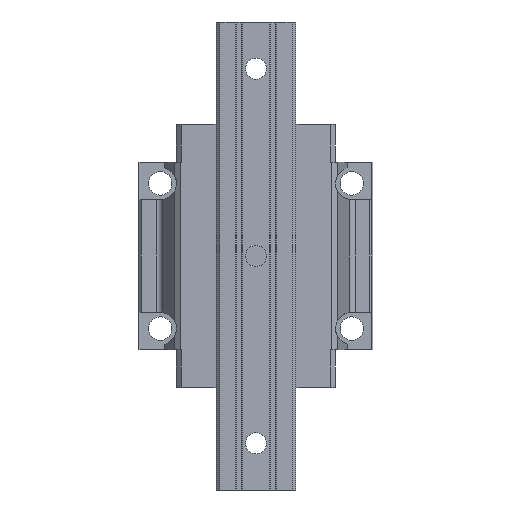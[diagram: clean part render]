
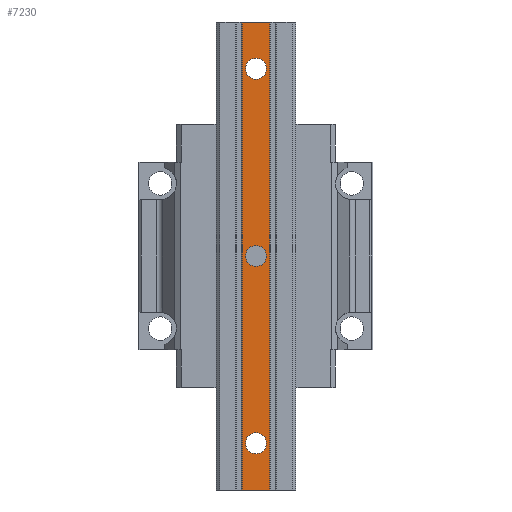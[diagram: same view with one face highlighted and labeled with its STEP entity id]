
A CAD part, front view. The second image highlights one B-rep face of the part: STEP entity #7230.
In plain terms, the highlighted planar face has unit normal (0, -1, 0).
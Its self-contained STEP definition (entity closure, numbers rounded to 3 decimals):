
#591 = VERTEX_POINT ( 'NONE', #15710 ) ;
#931 = LINE ( 'NONE', #24859, #22478 ) ;
#1000 = VERTEX_POINT ( 'NONE', #28461 ) ;
#1904 = VERTEX_POINT ( 'NONE', #34160 ) ;
#2000 = DIRECTION ( 'NONE',  ( 1., 0., 0. ) ) ;
#3173 = CARTESIAN_POINT ( 'NONE',  ( 0., -29., 84.5 ) ) ;
#3596 = EDGE_CURVE ( 'NONE', #16090, #1904, #6111, .T. ) ;
#3730 = LINE ( 'NONE', #23613, #32730 ) ;
#3932 = EDGE_CURVE ( 'NONE', #591, #33112, #20266, .T. ) ;
#5590 = EDGE_CURVE ( 'NONE', #1904, #16090, #10837, .T. ) ;
#5786 = CARTESIAN_POINT ( 'NONE',  ( -5.85, -29., -100. ) ) ;
#5952 = DIRECTION ( 'NONE',  ( 0., 0., 1. ) ) ;
#6111 = CIRCLE ( 'NONE', #7923, 4.5 ) ;
#7230 = ADVANCED_FACE ( 'NONE', ( #36681, #28492, #22371, #11269 ), #8838, .T. ) ;
#7360 = DIRECTION ( 'NONE',  ( 0., 0., 1. ) ) ;
#7456 = ORIENTED_EDGE ( 'NONE', *, *, #8646, .T. ) ;
#7923 = AXIS2_PLACEMENT_3D ( 'NONE', #19101, #32642, #27081 ) ;
#8096 = LINE ( 'NONE', #32928, #28612 ) ;
#8136 = DIRECTION ( 'NONE',  ( 0., 1., 0. ) ) ;
#8472 = CARTESIAN_POINT ( 'NONE',  ( -5.85, -29., -100. ) ) ;
#8646 = EDGE_CURVE ( 'NONE', #19170, #10897, #3730, .T. ) ;
#8838 = PLANE ( 'NONE',  #33883 ) ;
#8863 = EDGE_LOOP ( 'NONE', ( #12988, #26864 ) ) ;
#8937 = DIRECTION ( 'NONE',  ( 0., 1., 0. ) ) ;
#9391 = ORIENTED_EDGE ( 'NONE', *, *, #13546, .T. ) ;
#10136 = CARTESIAN_POINT ( 'NONE',  ( -5.85, -29., 100. ) ) ;
#10837 = CIRCLE ( 'NONE', #35684, 4.5 ) ;
#10897 = VERTEX_POINT ( 'NONE', #5786 ) ;
#11269 = FACE_OUTER_BOUND ( 'NONE', #35883, .T. ) ;
#11347 = ORIENTED_EDGE ( 'NONE', *, *, #3932, .T. ) ;
#11700 = CIRCLE ( 'NONE', #32962, 4.5 ) ;
#12945 = ORIENTED_EDGE ( 'NONE', *, *, #35745, .F. ) ;
#12988 = ORIENTED_EDGE ( 'NONE', *, *, #5590, .T. ) ;
#13086 = CARTESIAN_POINT ( 'NONE',  ( 0., -29., -4.5 ) ) ;
#13209 = VERTEX_POINT ( 'NONE', #22339 ) ;
#13546 = EDGE_CURVE ( 'NONE', #33112, #591, #29973, .T. ) ;
#13682 = DIRECTION ( 'NONE',  ( 0., 0., 1. ) ) ;
#13862 = CARTESIAN_POINT ( 'NONE',  ( 0., -29., -80. ) ) ;
#14528 = CARTESIAN_POINT ( 'NONE',  ( 0., -29., -84.5 ) ) ;
#14563 = ORIENTED_EDGE ( 'NONE', *, *, #19758, .T. ) ;
#14724 = ORIENTED_EDGE ( 'NONE', *, *, #31250, .T. ) ;
#15604 = DIRECTION ( 'NONE',  ( 0., 0., -1. ) ) ;
#15710 = CARTESIAN_POINT ( 'NONE',  ( 0., -29., -75.5 ) ) ;
#15746 = DIRECTION ( 'NONE',  ( 1., 0., 0. ) ) ;
#16060 = DIRECTION ( 'NONE',  ( 0., 1., 0. ) ) ;
#16090 = VERTEX_POINT ( 'NONE', #13086 ) ;
#17417 = DIRECTION ( 'NONE',  ( 0., 1., 0. ) ) ;
#19101 = CARTESIAN_POINT ( 'NONE',  ( 0., -29., 0. ) ) ;
#19170 = VERTEX_POINT ( 'NONE', #10136 ) ;
#19687 = AXIS2_PLACEMENT_3D ( 'NONE', #13862, #8136, #13682 ) ;
#19758 = EDGE_CURVE ( 'NONE', #13209, #27229, #11700, .T. ) ;
#19777 = DIRECTION ( 'NONE',  ( 0., -1., 0. ) ) ;
#20266 = CIRCLE ( 'NONE', #19687, 4.5 ) ;
#20327 = CIRCLE ( 'NONE', #30438, 4.5 ) ;
#22339 = CARTESIAN_POINT ( 'NONE',  ( 0., -29., 75.5 ) ) ;
#22371 = FACE_BOUND ( 'NONE', #8863, .T. ) ;
#22478 = VECTOR ( 'NONE', #15746, 1000. ) ;
#23178 = CARTESIAN_POINT ( 'NONE',  ( 0., -29., 0. ) ) ;
#23531 = VECTOR ( 'NONE', #2000, 1000. ) ;
#23608 = EDGE_LOOP ( 'NONE', ( #31867, #14563 ) ) ;
#23613 = CARTESIAN_POINT ( 'NONE',  ( -5.85, -29., -100. ) ) ;
#24053 = AXIS2_PLACEMENT_3D ( 'NONE', #31755, #8937, #5952 ) ;
#24859 = CARTESIAN_POINT ( 'NONE',  ( 0., -29., 100. ) ) ;
#24939 = DIRECTION ( 'NONE',  ( 0., 1., 0. ) ) ;
#25357 = CARTESIAN_POINT ( 'NONE',  ( 0., -29., -100. ) ) ;
#26772 = EDGE_LOOP ( 'NONE', ( #11347, #9391 ) ) ;
#26864 = ORIENTED_EDGE ( 'NONE', *, *, #3596, .T. ) ;
#26895 = EDGE_CURVE ( 'NONE', #10897, #1000, #27421, .T. ) ;
#27081 = DIRECTION ( 'NONE',  ( 0., 0., 1. ) ) ;
#27229 = VERTEX_POINT ( 'NONE', #3173 ) ;
#27363 = DIRECTION ( 'NONE',  ( 0., 0., 1. ) ) ;
#27421 = LINE ( 'NONE', #25357, #23531 ) ;
#28461 = CARTESIAN_POINT ( 'NONE',  ( 5.85, -29., -100. ) ) ;
#28492 = FACE_BOUND ( 'NONE', #23608, .T. ) ;
#28612 = VECTOR ( 'NONE', #7360, 1000. ) ;
#28977 = VERTEX_POINT ( 'NONE', #29585 ) ;
#29585 = CARTESIAN_POINT ( 'NONE',  ( 5.85, -29., 100. ) ) ;
#29973 = CIRCLE ( 'NONE', #24053, 4.5 ) ;
#30141 = DIRECTION ( 'NONE',  ( 0., 0., 1. ) ) ;
#30438 = AXIS2_PLACEMENT_3D ( 'NONE', #33494, #16060, #27363 ) ;
#31250 = EDGE_CURVE ( 'NONE', #1000, #28977, #8096, .T. ) ;
#31344 = EDGE_CURVE ( 'NONE', #27229, #13209, #20327, .T. ) ;
#31727 = DIRECTION ( 'NONE',  ( 0., 0., 1. ) ) ;
#31755 = CARTESIAN_POINT ( 'NONE',  ( 0., -29., -80. ) ) ;
#31867 = ORIENTED_EDGE ( 'NONE', *, *, #31344, .T. ) ;
#32642 = DIRECTION ( 'NONE',  ( 0., 1., 0. ) ) ;
#32730 = VECTOR ( 'NONE', #15604, 1000. ) ;
#32928 = CARTESIAN_POINT ( 'NONE',  ( 5.85, -29., -100. ) ) ;
#32962 = AXIS2_PLACEMENT_3D ( 'NONE', #33451, #24939, #30141 ) ;
#33112 = VERTEX_POINT ( 'NONE', #14528 ) ;
#33451 = CARTESIAN_POINT ( 'NONE',  ( 0., -29., 80. ) ) ;
#33494 = CARTESIAN_POINT ( 'NONE',  ( 0., -29., 80. ) ) ;
#33883 = AXIS2_PLACEMENT_3D ( 'NONE', #8472, #19777, #36512 ) ;
#34160 = CARTESIAN_POINT ( 'NONE',  ( 0., -29., 4.5 ) ) ;
#35415 = ORIENTED_EDGE ( 'NONE', *, *, #26895, .T. ) ;
#35684 = AXIS2_PLACEMENT_3D ( 'NONE', #23178, #17417, #31727 ) ;
#35745 = EDGE_CURVE ( 'NONE', #19170, #28977, #931, .T. ) ;
#35883 = EDGE_LOOP ( 'NONE', ( #14724, #12945, #7456, #35415 ) ) ;
#36512 = DIRECTION ( 'NONE',  ( 0., 0., -1. ) ) ;
#36681 = FACE_BOUND ( 'NONE', #26772, .T. ) ;
